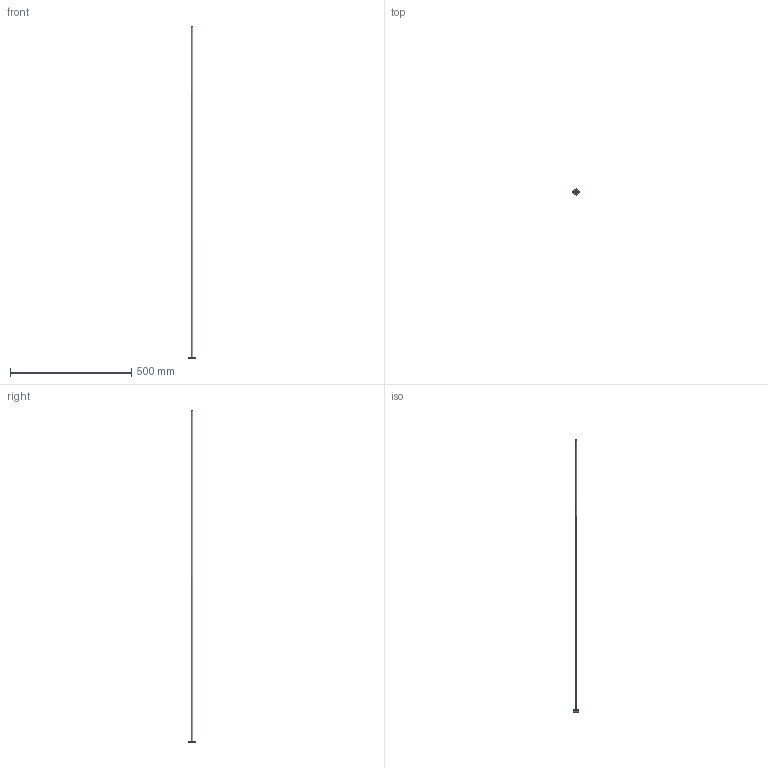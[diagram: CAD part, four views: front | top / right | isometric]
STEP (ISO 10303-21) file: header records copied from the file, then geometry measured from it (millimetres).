
FILE_DESCRIPTION(('FreeCAD Model'),'2;1');
FILE_NAME('Open CASCADE Shape Model','2026-10-09T19:40:46',(''),(''), 'Open CASCADE STEP processor 7.8','FreeCAD','Unknown');
FILE_SCHEMA(('AUTOMOTIVE_DESIGN { 1 0 10303 214 1 1 1 1 }'));
Length unit declared in the file: millimetre
Products named in the file (1): Body
Bounding box: 24.75 x 24.75 x 1367.82 mm (x, y, z)
Volume: 4005 mm3; surface area: 51561.1 mm2
Topology: 1 solids, 1 shells, 8 faces, 14 edges, 9 vertices
Faces by surface type: plane 3, cylinder 3, torus 2
Full cylindrical faces by diameter (mm): 5.74 x1, 6.045 x1, 24.749 x1
Entity records: 227 total; most frequent: DIRECTION 43, CARTESIAN_POINT 32, ORIENTED_EDGE 28, AXIS2_PLACEMENT_3D 20, EDGE_CURVE 14, FACE_BOUND 11, EDGE_LOOP 11, CIRCLE 11
